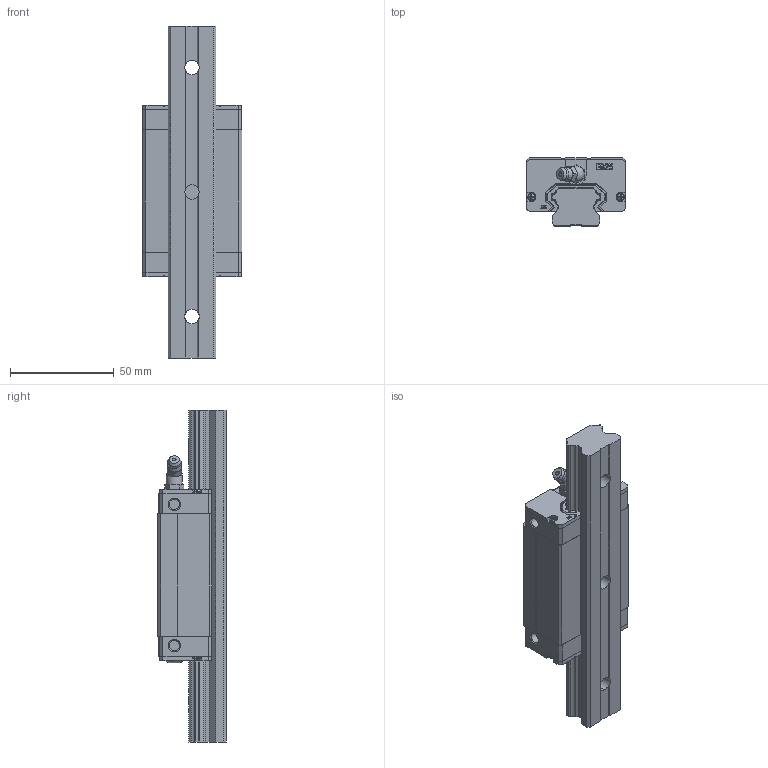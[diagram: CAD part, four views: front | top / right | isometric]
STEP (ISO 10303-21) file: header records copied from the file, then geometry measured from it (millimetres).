
FILE_DESCRIPTION(/* description */ (''),/* implementation_level */ '2;1');
FILE_NAME(/* name */ 'EBH25CA.stp',/* time_stamp */ '2024-09-29T20:39:47+08:00',/* author */ (''),/* organization */ (''),/* preprocessor_version */ 'ST-DEVELOPER v16.7',/* originating_system */ 'SIEMENS PLM Software NX 12.0',/* authorisation */ '');
FILE_SCHEMA (('AUTOMOTIVE_DESIGN { 1 0 10303 214 3 1 1 1 }'));
Products named in the file (3): EBH25CA; EBR25; EBH25CA_stp
Assembly tree (2 placements, depth 2):
  EBH25CA_stp
    EBR25
    EBH25CA
Bounding box: 48 x 33 x 160 mm (x, y, z)
Volume: 134721.3 mm3; surface area: 38043.3 mm2
Topology: 2 solids, 6 shells, 962 faces, 2633 edges, 1727 vertices
Faces by surface type: plane 525, cylinder 191, extrusion 130, cone 50, bspline 44, torus 15, sphere 7
Full cylindrical faces by diameter (mm): 2.3 x4, 3 x1, 3.7 x1, 5 x4, 6.4 x2, 7.8 x1, 8.3 x1
Entity records: 77593 total; most frequent: CARTESIAN_POINT 48500, ORIENTED_EDGE 5124, DIRECTION 4105, EDGE_CURVE 2562, VERTEX_POINT 1701, VECTOR 1619, LINE 1489, AXIS2_PLACEMENT_3D 1243
